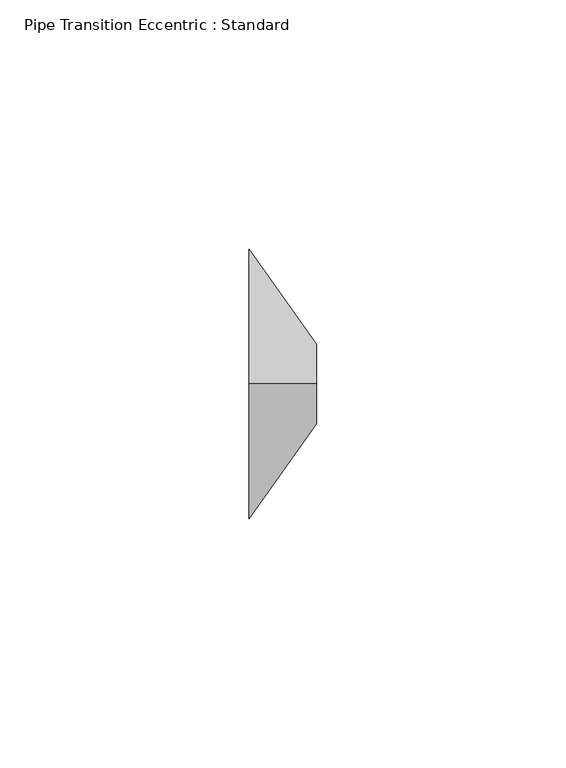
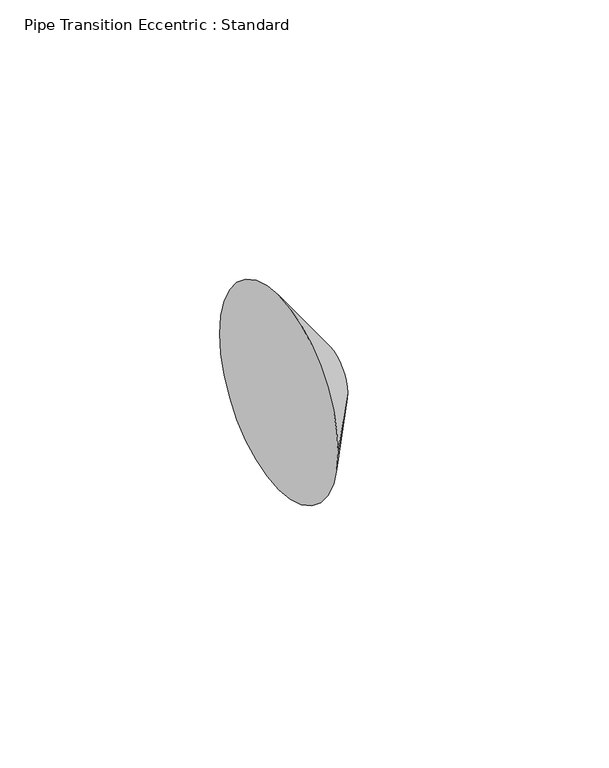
"""IFC4 building model written with IfcOpenShell, lengths in millimetres: pipe fitting geometry, Pipe Transition Eccentric : Standard."""

import ifcopenshell
import ifcopenshell.guid

model = None  # the IFC model being written
_history = None  # IfcOwnerHistory: only IFC2X3 demands one
_inside = {}  # id of a spatial element -> (the spatial element, [elements in it])
_under = {}  # id of a project, library or spatial element -> (it, [spatial elements below it])
_declared = {}  # id of a project -> (the project, [libraries it declares])
_typed = {}  # id of a type object -> (the type object, [elements of that type])
_made_of = {}  # id of a material, layer set ... -> (it, [elements and type objects made of it])


def new_model(schema):
    """Start an empty IFC model of exactly this schema.

    Asked for "IFC4X3", IfcOpenShell would pick the latest addendum, in which some entities
    have other attributes; the version numbers below select the first issue.
    IFC2X3 requires an IfcOwnerHistory on every rooted entity: one is made here for all.
    """
    global model, _history
    if schema == "IFC4X3":
        model = ifcopenshell.file(schema_version=(4, 3, 0, 0))
    else:
        model = ifcopenshell.file(schema=schema)
    _inside.clear()
    _under.clear()
    _declared.clear()
    _typed.clear()
    _made_of.clear()
    _history = None
    if model.schema == "IFC2X3":
        org = make("IfcOrganization", Name="unknown")
        user = make(
            "IfcPersonAndOrganization",
            ThePerson=make("IfcPerson", FamilyName="unknown"),
            TheOrganization=org,
        )
        app = make(
            "IfcApplication",
            ApplicationDeveloper=org,
            Version="unknown",
            ApplicationFullName="unknown",
            ApplicationIdentifier="unknown",
        )
        _history = make(
            "IfcOwnerHistory",
            OwningUser=user,
            OwningApplication=app,
            ChangeAction="ADDED",
            CreationDate=0,
        )
    return model


def make(cls, **values):
    """One entity of the class cls with the attributes given. An attribute that is None is left unset."""
    return model.create_entity(
        cls, **{name: value for name, value in values.items() if value is not None}
    )


def rooted(cls, **values):
    """An entity with a GlobalId (a new one), such as an element, a storey or a relation."""
    return make(cls, GlobalId=ifcopenshell.guid.new(), OwnerHistory=_history, **values)


def si_unit(unit_type, name, prefix=None):
    """IfcSIUnit, for example si_unit("LENGTHUNIT", "METRE", prefix="MILLI")."""
    return make("IfcSIUnit", UnitType=unit_type, Prefix=prefix, Name=name)


def assignment(units):
    """IfcUnitAssignment: the units of a project."""
    return None if units is None else make("IfcUnitAssignment", Units=units)


def point(xyz):
    """IfcCartesianPoint."""
    return None if xyz is None else make("IfcCartesianPoint", Coordinates=xyz)


def direction(xyz):
    """IfcDirection."""
    return None if xyz is None else make("IfcDirection", DirectionRatios=xyz)


def frame(location, z_axis=None, x_axis=None):
    """IfcAxis2Placement3D, a coordinate frame: its origin and axes. An axis left out is left unset."""
    return make(
        "IfcAxis2Placement3D",
        Location=point(location),
        Axis=direction(z_axis),
        RefDirection=direction(x_axis),
    )


def origin():
    """The frame at (0, 0, 0) with its axes left unset."""
    return frame((0.0, 0.0, 0.0))


def place(relative_to, where):
    """IfcLocalPlacement: puts the frame where relative to a parent placement (None: the world)."""
    return make(
        "IfcLocalPlacement", PlacementRelTo=relative_to, RelativePlacement=where
    )


def context(
    kind, dimensions, precision=None, world=None, true_north=None, identifier=None
):
    """IfcGeometricRepresentationContext, for example the 3D "Model" context."""
    return make(
        "IfcGeometricRepresentationContext",
        ContextIdentifier=identifier,
        ContextType=kind,
        CoordinateSpaceDimension=dimensions,
        Precision=precision,
        WorldCoordinateSystem=world,
        TrueNorth=true_north,
    )


def project(units=None, contexts=None):
    """IfcProject with its units and contexts."""
    return rooted(
        "IfcProject",
        Name="project",
        RepresentationContexts=contexts,
        UnitsInContext=assignment(units),
    )


def spatial(cls, under=None, at=None, **own):
    """A site, building, storey or space (cls), placed at a placement, below another one or the project."""
    s = rooted(cls, ObjectPlacement=at, **own)
    if under is not None:
        _under.setdefault(under.id(), (under, []))[1].append(s)
    return s


def polyline(points):
    """IfcPolyline through the points."""
    return make("IfcPolyline", Points=[point(p) for p in points])


def circle_curve(where, radius):
    """IfcCircle in the frame where."""
    return make("IfcCircle", Position=where, Radius=radius)


def shape(context_of_items, identifier, shape_type, items):
    """IfcShapeRepresentation: the items that make up one representation, for example the "Body"."""
    return make(
        "IfcShapeRepresentation",
        ContextOfItems=context_of_items,
        RepresentationIdentifier=identifier,
        RepresentationType=shape_type,
        Items=items,
    )


def source(mapping_origin, context_of_items, identifier, shape_type, items):
    """IfcRepresentationMap: a shape defined once, which mapped items show again and again."""
    return make(
        "IfcRepresentationMap",
        MappingOrigin=mapping_origin,
        MappedRepresentation=shape(context_of_items, identifier, shape_type, items),
    )


def transform(
    local_origin,
    x_axis=None,
    y_axis=None,
    z_axis=None,
    scale=None,
    scale2=None,
    scale3=None,
    uniform=True,
):
    """IfcCartesianTransformationOperator3D, or its non-uniform kind. x_axis, y_axis, z_axis: its Axis1, 2, 3."""
    if uniform:
        return make(
            "IfcCartesianTransformationOperator3D",
            Axis1=direction(x_axis),
            Axis2=direction(y_axis),
            LocalOrigin=point(local_origin),
            Scale=scale,
            Axis3=direction(z_axis),
        )
    return make(
        "IfcCartesianTransformationOperator3DnonUniform",
        Axis1=direction(x_axis),
        Axis2=direction(y_axis),
        LocalOrigin=point(local_origin),
        Scale=scale,
        Axis3=direction(z_axis),
        Scale2=scale2,
        Scale3=scale3,
    )


def mapped(mapping_source, mapping_target):
    """IfcMappedItem: shows the shape of a source again, moved by a transform."""
    return make(
        "IfcMappedItem", MappingSource=mapping_source, MappingTarget=mapping_target
    )


def made_of(thing, what):
    """Note that an element or type object is made of a material, layer set ...; save() writes the relation."""
    if what is not None:
        _made_of.setdefault(what.id(), (what, []))[1].append(thing)
    return thing


def element(
    cls,
    number,
    at=None,
    inside=None,
    cuts=None,
    type_object=None,
    material=None,
    context=None,
    identifier="Body",
    shape_type=None,
    held_by="IfcProductDefinitionShape",
    body=None,
    shapes=None,
    **own,
):
    """One element of the class cls, such as IfcWall. Its Tag is "e" and its number.

    at: its placement. inside: the storey or other place that contains it. cuts: it is an
    opening in that element (IfcRelVoidsElement). A single representation is given by context,
    identifier, shape_type and body (its items); several are given by shapes. held_by: the class
    of the entity that holds the representations. save() writes the other relations.
    """
    e = rooted(cls, Tag="e%d" % number, ObjectPlacement=at, **own)
    if body is not None:
        shapes = [shape(context, identifier, shape_type, body)]
    if shapes is not None:
        e.Representation = make(held_by, Representations=shapes)
    if inside is not None:
        _inside.setdefault(inside.id(), (inside, []))[1].append(e)
    if cuts is not None:
        rooted(
            "IfcRelVoidsElement", RelatingBuildingElement=cuts, RelatedOpeningElement=e
        )
    if type_object is not None:
        _typed.setdefault(type_object.id(), (type_object, []))[1].append(e)
    return made_of(e, material)


def aggregate(whole, parts):
    """IfcRelAggregates: a whole, such as a stair, and the parts it consists of."""
    return rooted("IfcRelAggregates", RelatingObject=whole, RelatedObjects=parts)


def save(model, path):
    """Write the relations noted so far, then the file.

    IfcRelAggregates (storeys below a building ...), IfcRelContainedInSpatialStructure (elements
    in a storey), IfcRelDefinesByType, IfcRelAssociatesMaterial and IfcRelDeclares: one each for
    every whole, place, type object, material and project.
    """
    for whole, parts in _under.values():
        aggregate(whole, parts)
    for where, things in _inside.values():
        rooted(
            "IfcRelContainedInSpatialStructure",
            RelatedElements=things,
            RelatingStructure=where,
        )
    for kind, things in _typed.values():
        rooted("IfcRelDefinesByType", RelatedObjects=things, RelatingType=kind)
    for what, things in _made_of.values():
        rooted("IfcRelAssociatesMaterial", RelatedObjects=things, RelatingMaterial=what)
    for by, libraries in _declared.values():
        rooted("IfcRelDeclares", RelatingContext=by, RelatedDefinitions=libraries)
    model.write(path)


def plane_surface(at):
    """IfcPlane: the flat surface through the origin of the frame at, square to its z axis."""
    return make("IfcPlane", Position=at)


def revolved_surface(curve, axis_point, axis_direction):
    """IfcSurfaceOfRevolution: the curve turned about the line through axis_point along axis_direction."""
    return make(
        "IfcSurfaceOfRevolution",
        SweptCurve=make("IfcArbitraryOpenProfileDef", ProfileType="CURVE", Curve=curve),
        AxisPosition=make("IfcAxis1Placement", Location=point(axis_point), Axis=direction(axis_direction)),
    )


def advanced_brep(points, edges, surfaces, faces):
    """IfcAdvancedBrep: a solid bounded by faces that lie on surfaces and meet in shared edges.

    An edge is (start, end): straight between two places in points (the first is 0);
    or (start, end, curve); or (start, end, curve, False) where it runs against its curve.
    A face is (place in surfaces, loops), or (place, loops, False) where it looks against
    its surface's normal. A loop lists edges by number (the first is 1), with a minus sign
    where the edge is run from its end to its start. The first loop is the outer one.
    """
    corners = [point(p) for p in points]
    vertices = [make("IfcVertexPoint", VertexGeometry=c) for c in corners]
    made = []
    for start, end, *more in edges:
        made.append(
            make(
                "IfcEdgeCurve",
                EdgeStart=vertices[start],
                EdgeEnd=vertices[end],
                EdgeGeometry=more[0] if more else make("IfcPolyline", Points=[corners[start], corners[end]]),
                SameSense=more[1] if len(more) > 1 else True,
            )
        )
    hull = []
    for where, loops, *sense in faces:
        bounds = []
        for j, loop in enumerate(loops):
            ring = [make("IfcOrientedEdge", EdgeElement=made[abs(k) - 1], Orientation=k > 0) for k in loop]
            bounds.append(
                make(
                    "IfcFaceOuterBound" if j == 0 else "IfcFaceBound",
                    Bound=make("IfcEdgeLoop", EdgeList=ring),
                    Orientation=True,
                )
            )
        hull.append(make("IfcAdvancedFace", Bounds=bounds, FaceSurface=surfaces[where], SameSense=sense[0] if sense else True))
    return make("IfcAdvancedBrep", Outer=make("IfcClosedShell", CfsFaces=hull))


def pipe_transition_eccentric_standard_8ef0957a(model_context):
    return source(origin(), model_context, "Body", "AdvancedBrep", [
        advanced_brep(
        [(13.49375, 0.0, 7.9375), (13.49375, -7.9375, 0.0), (13.49375, 0.0, -7.9375), (13.49375, 7.9375, 0.0), (0.0, 0.0, 26.9875), (0.0, 26.9875, 0.0), (0.0, 0.0, -26.9875), (0.0, -26.9875, 0.0)],
        [
            (0, 1, circle_curve(frame((13.49375, 0.0, 0.0), z_axis=(1.0, 0.0, 0.0), x_axis=(0.0, 0.0, 1.0)), 7.9375)),
            (1, 2, circle_curve(frame((13.49375, 0.0, 0.0), z_axis=(1.0, 0.0, 0.0), x_axis=(0.0, -1.0, 0.0)), 7.9375)),
            (2, 3, circle_curve(frame((13.49375, 0.0, 0.0), z_axis=(1.0, 0.0, 0.0), x_axis=(0.0, 0.0, -1.0)), 7.9375)),
            (3, 0, circle_curve(frame((13.49375, 0.0, 0.0), z_axis=(1.0, 0.0, 0.0), x_axis=(0.0, 1.0, 0.0)), 7.9375)),
            (4, 5, circle_curve(frame((0.0, 0.0, 0.0), z_axis=(-1.0, 0.0, 0.0), x_axis=(0.0, 1.0, 0.0)), 26.9875)),
            (5, 6, circle_curve(frame((0.0, 0.0, 0.0), z_axis=(-1.0, 0.0, 0.0), x_axis=(0.0, 0.0, -1.0)), 26.9875)),
            (6, 7, circle_curve(frame((0.0, 0.0, 0.0), z_axis=(-1.0, 0.0, 0.0), x_axis=(0.0, -1.0, 0.0)), 26.9875)),
            (7, 4, circle_curve(frame((0.0, 0.0, 0.0), z_axis=(-1.0, 0.0, 0.0), x_axis=(0.0, 0.0, 1.0)), 26.9875)),
            (7, 1),
            (0, 4),
            (6, 2),
            (5, 3),
        ],
        [
            plane_surface(frame((13.49375, 0.0, 0.0), z_axis=(1.0, 0.0, 0.0), x_axis=(0.0, -1.0, 0.0))),
            plane_surface(frame((0.0, 0.0, 0.0), z_axis=(-1.0, 0.0, 0.0), x_axis=(0.0, -1.0, 0.0))),
            revolved_surface(polyline([(13.49375, 0.0, 7.937499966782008), (0.0, 0.0, 26.9875)]), (19.1161458, 0.0, 0.0), (-1.0, 0.0, 0.0)),
            revolved_surface(polyline([(13.49375, -7.937499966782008, 0.0), (0.0, -26.9875, 0.0)]), (19.1161458, 0.0, 0.0), (-1.0, 0.0, 0.0)),
            revolved_surface(polyline([(13.49375, 0.0, -7.937499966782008), (0.0, 0.0, -26.9875)]), (19.1161458, 0.0, 0.0), (-1.0, 0.0, 0.0)),
            revolved_surface(polyline([(13.49375, 7.937499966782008, 0.0), (0.0, 26.9875, 0.0)]), (19.1161458, 0.0, 0.0), (-1.0, 0.0, 0.0)),
        ],
        [
            (0, [[1, 2, 3, 4]]),
            (1, [[5, 6, 7, 8]]),
            (2, [[-8, 9, -1, 10]]),
            (3, [[-7, 11, -2, -9]]),
            (4, [[-6, 12, -3, -11]]),
            (5, [[-5, -10, -4, -12]]),
        ],
    ),
        advanced_brep(
        [(13.49375, 0.0, 7.9375), (13.49375, -7.9375, 0.0), (13.49375, 0.0, -7.9375), (13.49375, 7.9375, 0.0), (0.0, 0.0, 26.9875), (0.0, 26.9875, 0.0), (0.0, 0.0, -26.9875), (0.0, -26.9875, 0.0)],
        [
            (0, 1, circle_curve(frame((13.49375, 0.0, 0.0), z_axis=(1.0, 0.0, 0.0), x_axis=(0.0, 0.0, 1.0)), 7.9375)),
            (1, 2, circle_curve(frame((13.49375, 0.0, 0.0), z_axis=(1.0, 0.0, 0.0), x_axis=(0.0, -1.0, 0.0)), 7.9375)),
            (2, 3, circle_curve(frame((13.49375, 0.0, 0.0), z_axis=(1.0, 0.0, 0.0), x_axis=(0.0, 0.0, -1.0)), 7.9375)),
            (3, 0, circle_curve(frame((13.49375, 0.0, 0.0), z_axis=(1.0, 0.0, 0.0), x_axis=(0.0, 1.0, 0.0)), 7.9375)),
            (4, 5, circle_curve(frame((0.0, 0.0, 0.0), z_axis=(-1.0, 0.0, 0.0), x_axis=(0.0, 1.0, 0.0)), 26.9875)),
            (5, 6, circle_curve(frame((0.0, 0.0, 0.0), z_axis=(-1.0, 0.0, 0.0), x_axis=(0.0, 0.0, -1.0)), 26.9875)),
            (6, 7, circle_curve(frame((0.0, 0.0, 0.0), z_axis=(-1.0, 0.0, 0.0), x_axis=(0.0, -1.0, 0.0)), 26.9875)),
            (7, 4, circle_curve(frame((0.0, 0.0, 0.0), z_axis=(-1.0, 0.0, 0.0), x_axis=(0.0, 0.0, 1.0)), 26.9875)),
            (7, 1),
            (0, 4),
            (6, 2),
            (5, 3),
        ],
        [
            plane_surface(frame((13.49375, 0.0, 0.0), z_axis=(1.0, 0.0, 0.0), x_axis=(0.0, -1.0, 0.0))),
            plane_surface(frame((0.0, 0.0, 0.0), z_axis=(-1.0, 0.0, 0.0), x_axis=(0.0, -1.0, 0.0))),
            revolved_surface(polyline([(13.49375, 0.0, 7.937499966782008), (0.0, 0.0, 26.9875)]), (19.1161458, 0.0, 0.0), (-1.0, 0.0, 0.0)),
            revolved_surface(polyline([(13.49375, -7.937499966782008, 0.0), (0.0, -26.9875, 0.0)]), (19.1161458, 0.0, 0.0), (-1.0, 0.0, 0.0)),
            revolved_surface(polyline([(13.49375, 0.0, -7.937499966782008), (0.0, 0.0, -26.9875)]), (19.1161458, 0.0, 0.0), (-1.0, 0.0, 0.0)),
            revolved_surface(polyline([(13.49375, 7.937499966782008, 0.0), (0.0, 26.9875, 0.0)]), (19.1161458, 0.0, 0.0), (-1.0, 0.0, 0.0)),
        ],
        [
            (0, [[1, 2, 3, 4]]),
            (1, [[5, 6, 7, 8]]),
            (2, [[-8, 9, -1, 10]]),
            (3, [[-7, 11, -2, -9]]),
            (4, [[-6, 12, -3, -11]]),
            (5, [[-5, -10, -4, -12]]),
        ],
    ),
    ])


if __name__ == "__main__":
    model = new_model("IFC4")
    model_context = context("Model", 3, world=origin())
    ifc_project = project(units=[si_unit("LENGTHUNIT", "METRE", prefix="MILLI")], contexts=[model_context])
    site = spatial("IfcSite", under=ifc_project)
    building = spatial("IfcBuilding", under=site)
    placement = place(None, origin())
    pipe_transition_eccentric_standard_shape = pipe_transition_eccentric_standard_8ef0957a(model_context)
    element("IfcPipeFitting", 1, ObjectType="Pipe Transition Eccentric : Standard", at=placement, inside=building, context=model_context, shape_type="MappedRepresentation", body=[
        mapped(pipe_transition_eccentric_standard_shape, transform((0.0, 0.0, 0.0), x_axis=(1.0, 0.0, 0.0), y_axis=(0.0, 1.0, 0.0), z_axis=(0.0, 0.0, 1.0))),
    ])
    save(model, "model.ifc")
